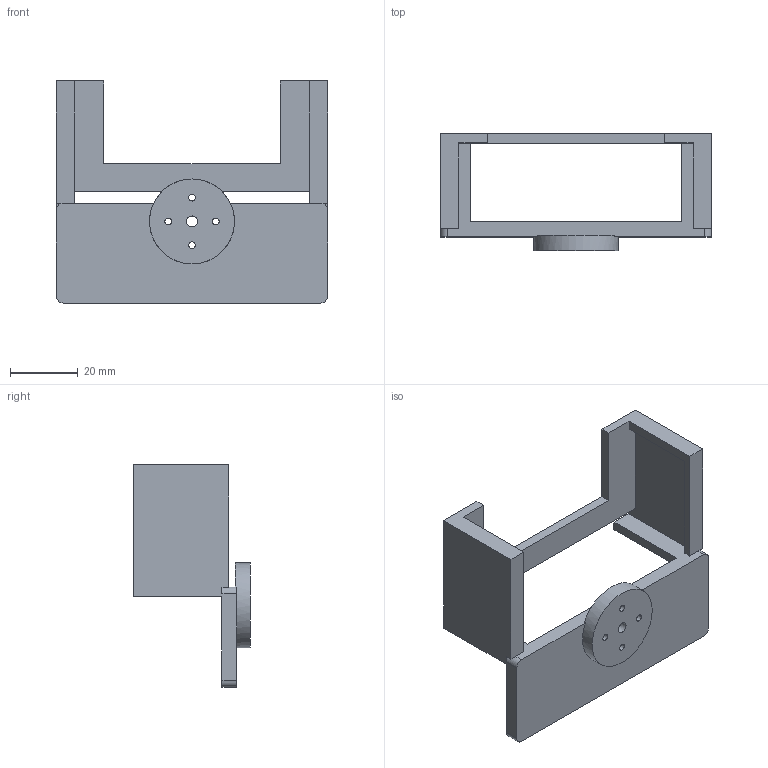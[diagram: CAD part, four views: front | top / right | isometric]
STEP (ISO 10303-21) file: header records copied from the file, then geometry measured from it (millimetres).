
FILE_DESCRIPTION(('Open CASCADE Model'),'2;1');
FILE_NAME('Open CASCADE Shape Model','2026-08-28T14:41:53',('Author'),( 'Open CASCADE'),'Open CASCADE STEP processor 7.8','Open CASCADE 7.8' ,'Unknown');
FILE_SCHEMA(('AUTOMOTIVE_DESIGN { 1 0 10303 214 1 1 1 1 }'));
Length unit declared in the file: millimetre
Products named in the file (1): Open CASCADE STEP translator 7.8 3
Bounding box: 79.71 x 34.4 x 65.31 mm (x, y, z)
Volume: 23014.7 mm3; surface area: 15316.5 mm2
Topology: 1 solids, 1 shells, 44 faces, 130 edges, 86 vertices
Faces by surface type: plane 34, cylinder 10
Full cylindrical faces by diameter (mm): 2 x4, 3.2 x1, 25 x1
Entity records: 3155 total; most frequent: CARTESIAN_POINT 586, DIRECTION 457, LINE 305, VECTOR 305, ORIENTED_EDGE 260, PCURVE 260, DEFINITIONAL_REPRESENTATION 260, EDGE_CURVE 130
